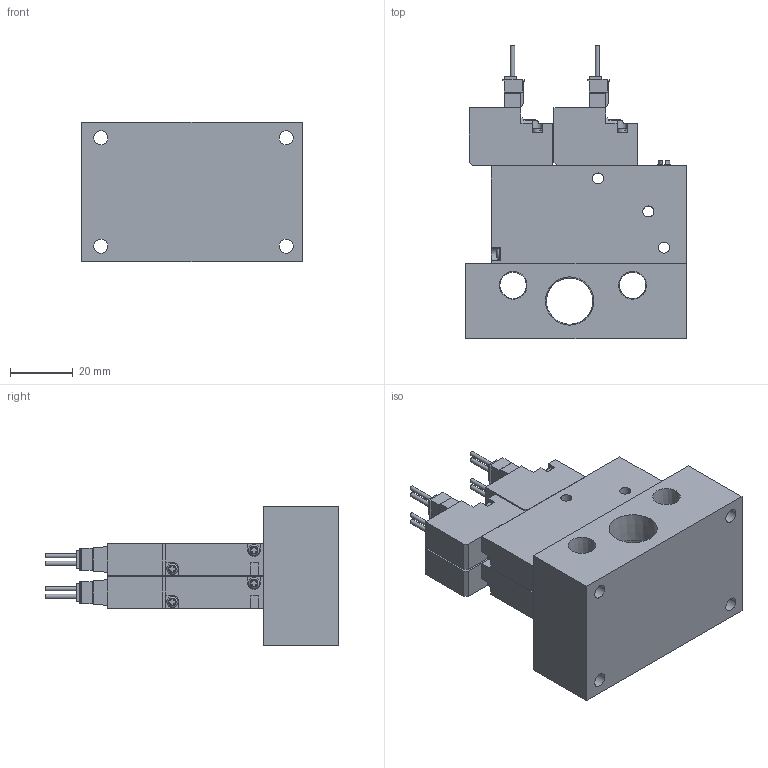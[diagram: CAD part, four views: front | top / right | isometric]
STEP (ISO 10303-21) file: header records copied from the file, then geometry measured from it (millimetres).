
FILE_DESCRIPTION(('STEP AP203'),'1');
FILE_NAME('BMPV42MZZ5A(B)202.stp','2025-04-30T01:21:28',(' '),(' '),'Spatial InterOp 3D',' ',' ');
FILE_SCHEMA(('CONFIG_CONTROL_DESIGN'));
Length unit declared in the file: millimetre
Products named in the file (4): BMPV42MZZ5A(B)202; VACUUM VALVE FUNCTION MPV42-A; UNIT-MPV42; MPV42-M20R-1
Assembly tree (7 placements, depth 2):
  BMPV42MZZ5A(B)202
    VACUUM VALVE FUNCTION MPV42-A  x4
    UNIT-MPV42  x2
    MPV42-M20R-1
Bounding box: 70 x 93.45 x 44.5 mm (x, y, z)
Volume: 116845.6 mm3; surface area: 38313.6 mm2
Topology: 7 solids, 7 shells, 541 faces, 1457 edges, 970 vertices
Faces by surface type: plane 434, cylinder 87, cone 12, torus 4, sphere 4
Full cylindrical faces by diameter (mm): 1.4 x8, 1.8 x2, 2.2 x4, 3 x8, 3.5 x14, 4.134 x2, 4.5 x4, 5 x2, 8.441 x2, 14.744 x1
Entity records: 5652 total; most frequent: CARTESIAN_POINT 1036, DIRECTION 900, ORIENTED_EDGE 860, EDGE_CURVE 430, LINE 322, VECTOR 322, VERTEX_POINT 305, AXIS2_PLACEMENT_3D 289
